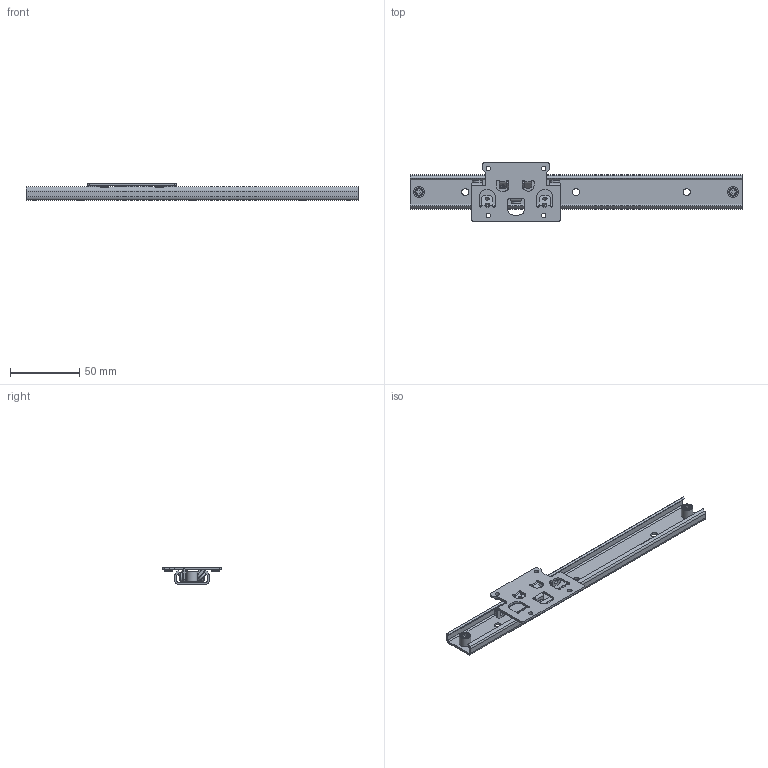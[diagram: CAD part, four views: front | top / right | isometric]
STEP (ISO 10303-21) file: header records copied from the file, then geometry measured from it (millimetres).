
FILE_DESCRIPTION((''),'1');
FILE_NAME('C:/Users/t-inoue/Desktop/25SW0240SS hp.stp','2016-07-29T02:14:27',(''),(''),'Spatial Interop R21 SP3','Kubotek KeyCreator 2011 V10.0.2 (22737)',' ');
FILE_SCHEMA(('automotive_design'));
Length unit declared in the file: millimetre
Products named in the file (418): Unnamed[1]
Bounding box: 240 x 42 x 12 mm (x, y, z)
Surface area: 27484.9 mm2 (no closed solid volume)
Topology: 0 solids, 418 shells, 418 faces, 1766 edges, 1609 vertices
Faces by surface type: plane 180, cylinder 124, cone 105, torus 8, sphere 1
Full cylindrical faces by diameter (mm): 1.6 x1, 3.2 x6, 3.3 x4, 3.5 x1, 4 x10, 5 x6, 5.5 x4, 5.6 x2, 7 x6, 8.2 x2
Entity records: 35546 total; most frequent: CARTESIAN_POINT 4264, DIRECTION 4049, PRESENTATION_STYLE_ASSIGNMENT 1672, COLOUR_RGB 1672, AXIS2_PLACEMENT_3D 1639, ORIENTED_EDGE 1582, EDGE_CURVE 1582, VERTEX_POINT 1582
